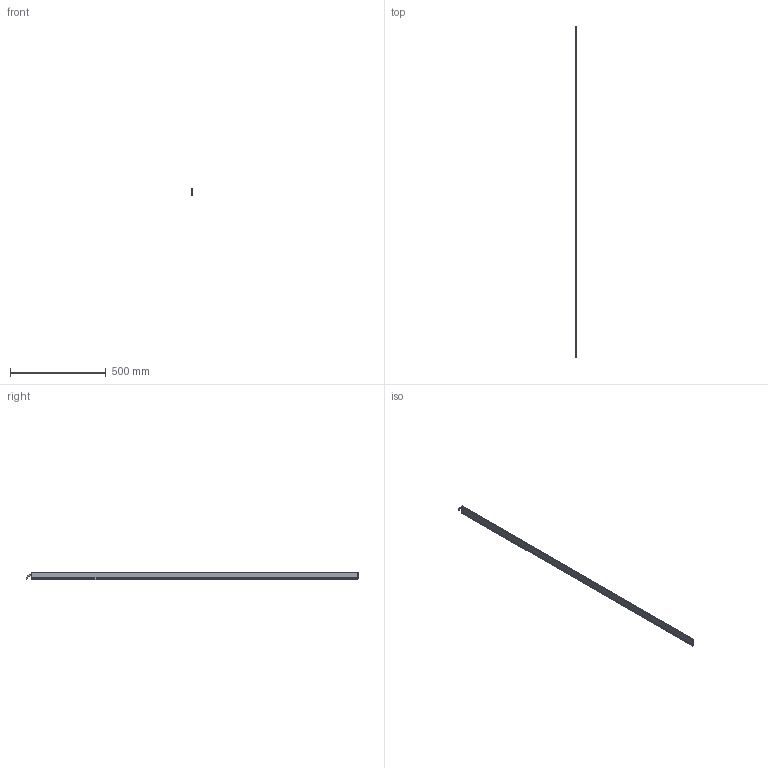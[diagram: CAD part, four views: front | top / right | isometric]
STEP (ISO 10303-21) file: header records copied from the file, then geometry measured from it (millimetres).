
FILE_DESCRIPTION (( 'STEP AP214' ), '1' );
FILE_NAME ('ILG-L-K1-1710mm.STEP', '2017-07-11T07:16:24', ( '' ), ( '' ), 'SwSTEP 2.0', 'SolidWorks 2016', '' );
FILE_SCHEMA (( 'AUTOMOTIVE_DESIGN' ));
Length unit declared in the file: millimetre
Products named in the file (1): ILG-L-K1-1710mm
Bounding box: 9 x 1738.25 x 40.71 mm (x, y, z)
Volume: 241687.4 mm3; surface area: 336465.8 mm2
Topology: 9 solids, 9 shells, 430 faces, 1108 edges, 698 vertices
Faces by surface type: plane 205, cylinder 151, cone 64, torus 10
Entity records: 17910 total; most frequent: CARTESIAN_POINT 2385, DIRECTION 2328, ORIENTED_EDGE 2200, EDGE_CURVE 1100, AXIS2_PLACEMENT_3D 849, VERTEX_POINT 698, LINE 630, VECTOR 630
